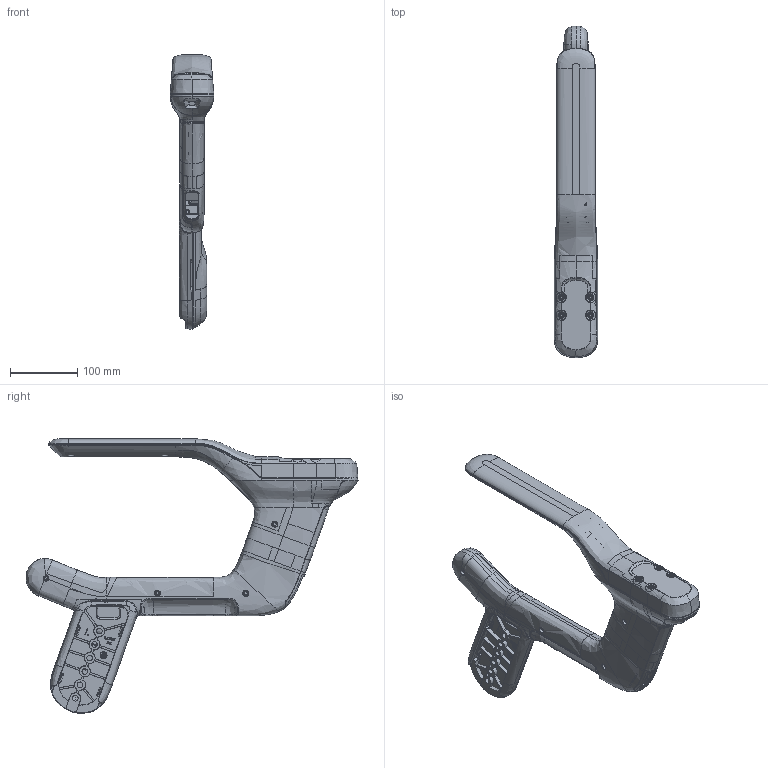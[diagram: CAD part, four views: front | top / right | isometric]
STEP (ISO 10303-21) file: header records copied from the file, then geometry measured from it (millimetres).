
FILE_DESCRIPTION (( 'STEP AP203' ), '1' );
FILE_NAME ('Left-Armrest-interfaces.STEP', '2026-04-07T09:25:16', ( '' ), ( '' ), 'SwSTEP 2.0', 'SolidWorks 2023', '' );
FILE_SCHEMA (( 'CONFIG_CONTROL_DESIGN' ));
Products named in the file (1): Left-Armrest-interfaces
Bounding box: 65.41 x 495.34 x 409.56 mm (x, y, z)
Surface area: 566498.2 mm2 (no closed solid volume)
Topology: 0 solids, 20 shells, 7907 faces, 21766 edges, 13893 vertices
Faces by surface type: bspline 3151, plane 3101, cylinder 1138, cone 297, sphere 136, torus 84
Entity records: 640187 total; most frequent: CARTESIAN_POINT 494636, ORIENTED_EDGE 43265, EDGE_CURVE 21654, B_SPLINE_CURVE_WITH_KNOTS 20959, VERTEX_POINT 13890, DIRECTION 9729, EDGE_LOOP 8146, FACE_OUTER_BOUND 7907
